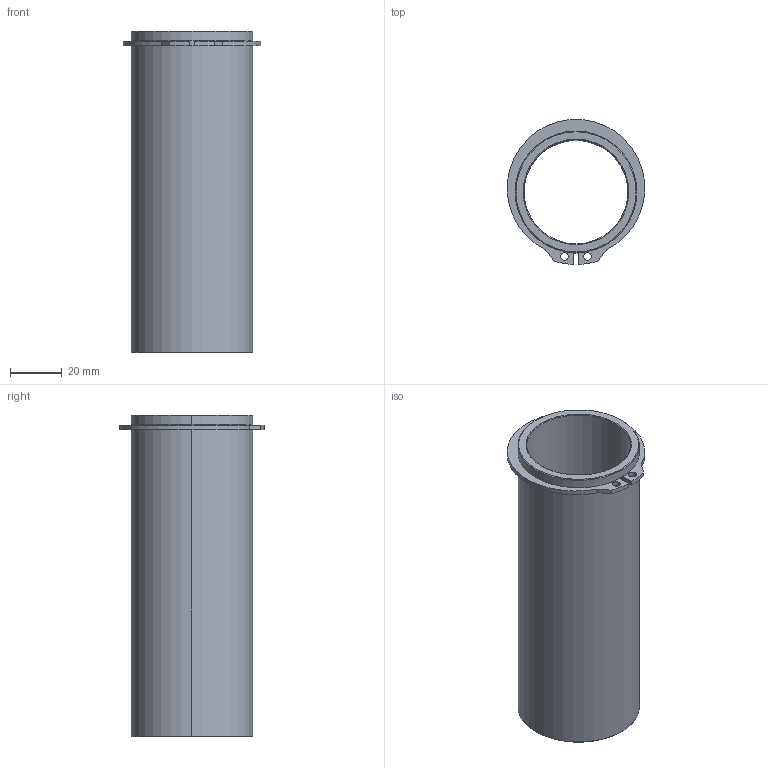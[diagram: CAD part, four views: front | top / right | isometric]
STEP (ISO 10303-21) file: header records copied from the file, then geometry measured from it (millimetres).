
FILE_DESCRIPTION((''),'2;1');
FILE_NAME('C13_040_125.stp','2008-12-17T16:06:50',(''),(''),'Mechanical Desktop 2009','Mechanical Desktop 2009',', , ');
FILE_SCHEMA(('CONFIG_CONTROL_DESIGN'));
Length unit declared in the file: millimetre
Products named in the file (2): Product; blmdl1
Assembly tree (1 placements, depth 2):
  Product
    blmdl1
Bounding box: 53.33 x 56.26 x 125 mm (x, y, z)
Volume: 60226.5 mm3; surface area: 37440.3 mm2
Topology: 2 solids, 2 shells, 34 faces, 76 edges, 48 vertices
Faces by surface type: cylinder 16, plane 10, cone 8
Entity records: 1075 total; most frequent: DIRECTION 188, CARTESIAN_POINT 160, ORIENTED_EDGE 152, AXIS2_PLACEMENT_3D 76, EDGE_CURVE 76, VERTEX_POINT 48, EDGE_LOOP 42, CIRCLE 40
